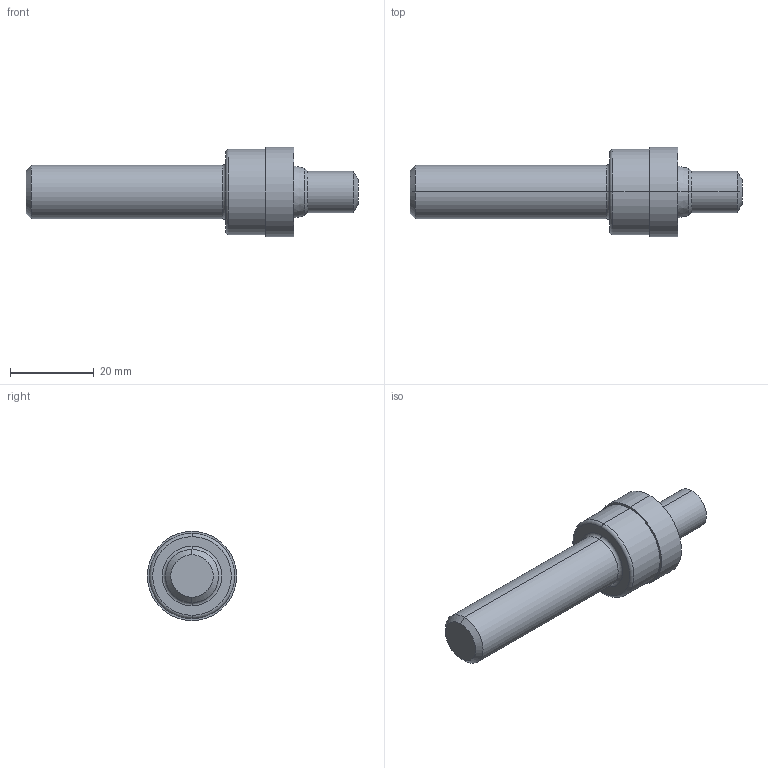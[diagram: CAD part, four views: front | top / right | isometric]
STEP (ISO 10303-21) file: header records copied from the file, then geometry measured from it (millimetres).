
FILE_DESCRIPTION (( 'STEP AP214' ), '1' );
FILE_NAME ('MS16142-4R-SolidModel.STEP', '2018-01-31T16:53:19', ( '' ), ( '' ), 'SwSTEP 2.0', 'SolidWorks 2017', '' );
FILE_SCHEMA (( 'AUTOMOTIVE_DESIGN' ));
Length unit declared in the file: inch
Products named in the file (1): MS16142-4R-SolidModel
Bounding box: 79.25 x 21.29 x 21.29 mm (x, y, z)
Volume: 12729.7 mm3; surface area: 4038.2 mm2
Topology: 1 solids, 1 shells, 25 faces, 48 edges, 28 vertices
Faces by surface type: cone 8, cylinder 8, plane 5, torus 4
Entity records: 678 total; most frequent: DIRECTION 132, CARTESIAN_POINT 102, ORIENTED_EDGE 96, AXIS2_PLACEMENT_3D 58, EDGE_CURVE 48, CIRCLE 32, EDGE_LOOP 28, VERTEX_POINT 28
